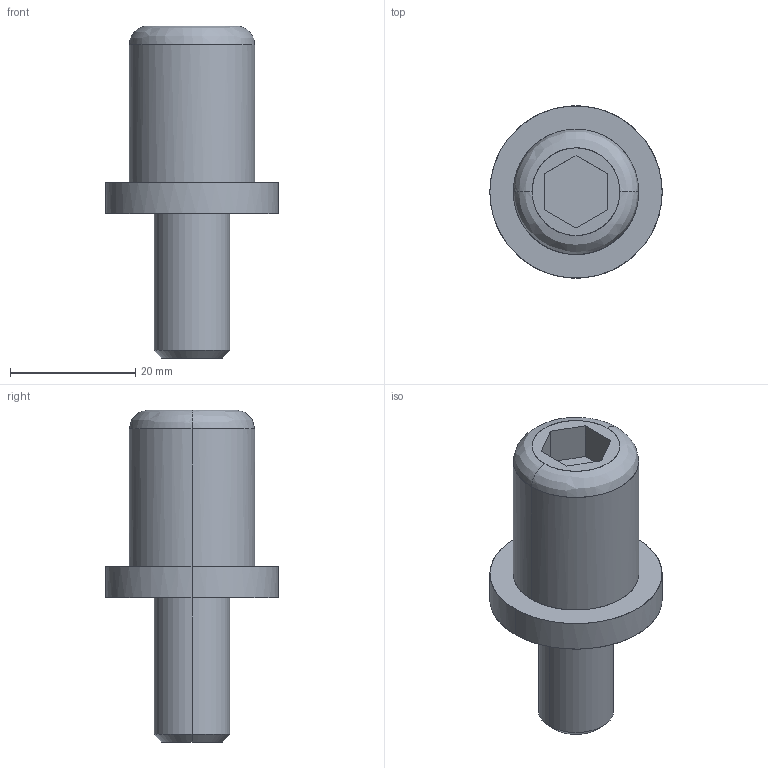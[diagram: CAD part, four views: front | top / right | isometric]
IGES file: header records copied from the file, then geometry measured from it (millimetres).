
Global section: file name: E:\UnigraphicsGraphicData\MISUMI_PRESS-PARTS\IGES\3d_sga27.5-30_00790_r00.igs; native system: NX V5.0; preprocessor: UGS NX IGES V5.0; author: MISUMI; date: 20110105.162530; units: millimetre
Bounding box: 27.5 x 27.5 x 53 mm (x, y, z)
Surface area: 4151.9 mm2 (no closed solid volume)
Topology: 0 solids, 0 shells, 21 faces, 140 edges, 140 vertices
Faces by surface type: bspline 21
